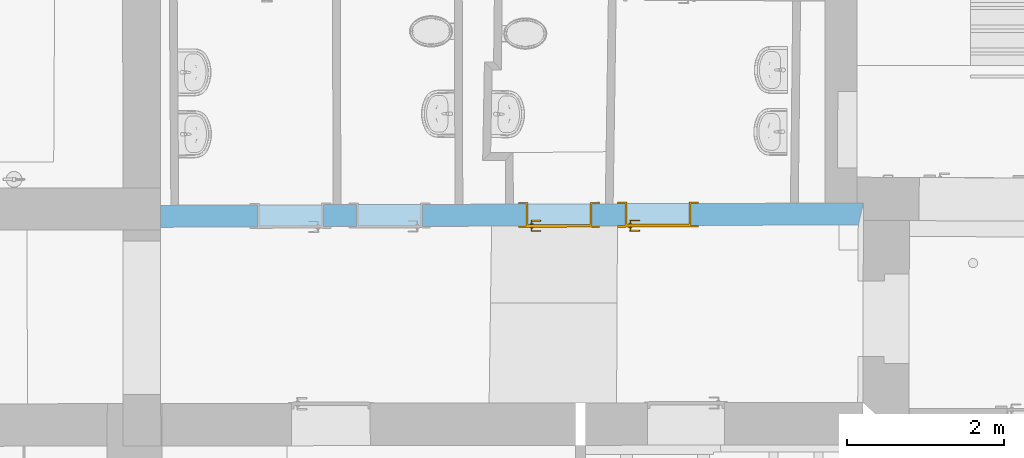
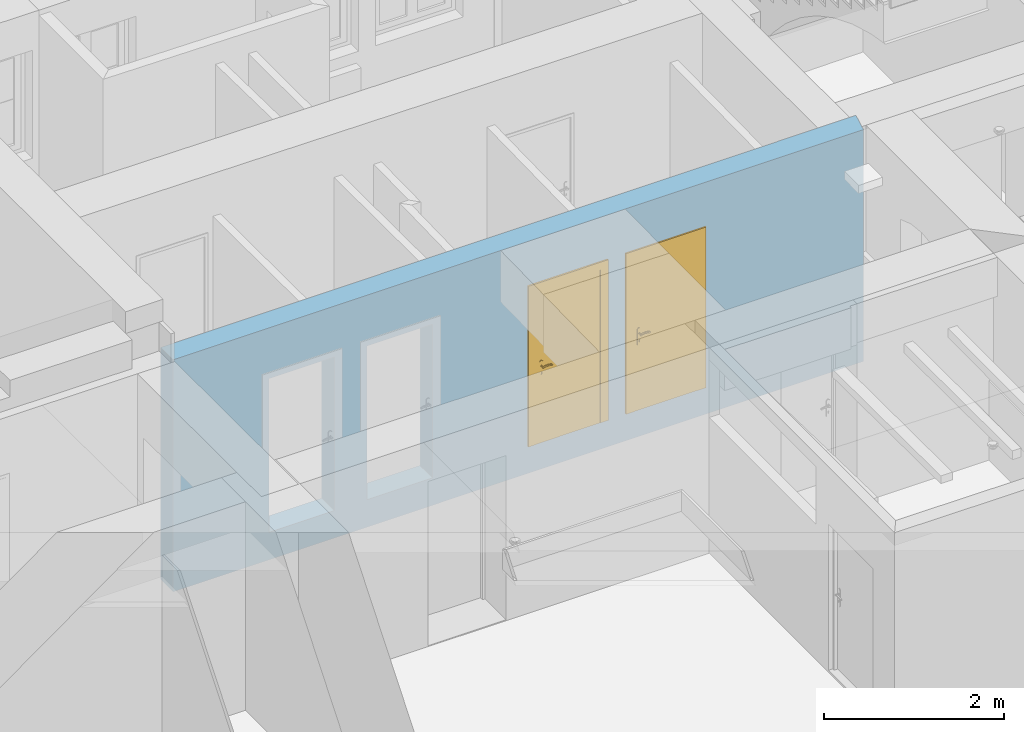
# One storey, part 48 of 196: 2 doors, 4 openings, plus 1 element that does not belong to this part.
"""IFC2X3 building model written with IfcOpenShell, lengths in metres."""

import ifcopenshell
import ifcopenshell.guid

model = None  # the IFC model being written
_history = None  # IfcOwnerHistory: only IFC2X3 demands one
_inside = {}  # id of a spatial element -> (the spatial element, [elements in it])
_under = {}  # id of a project, library or spatial element -> (it, [spatial elements below it])
_declared = {}  # id of a project -> (the project, [libraries it declares])
_typed = {}  # id of a type object -> (the type object, [elements of that type])
_made_of = {}  # id of a material, layer set ... -> (it, [elements and type objects made of it])


def new_model(schema):
    """Start an empty IFC model of exactly this schema.

    Asked for "IFC4X3", IfcOpenShell would pick the latest addendum, in which some entities
    have other attributes; the version numbers below select the first issue.
    IFC2X3 requires an IfcOwnerHistory on every rooted entity: one is made here for all.
    """
    global model, _history
    if schema == "IFC4X3":
        model = ifcopenshell.file(schema_version=(4, 3, 0, 0))
    else:
        model = ifcopenshell.file(schema=schema)
    _inside.clear()
    _under.clear()
    _declared.clear()
    _typed.clear()
    _made_of.clear()
    _history = None
    if model.schema == "IFC2X3":
        org = make("IfcOrganization", Name="unknown")
        user = make(
            "IfcPersonAndOrganization",
            ThePerson=make("IfcPerson", FamilyName="unknown"),
            TheOrganization=org,
        )
        app = make(
            "IfcApplication",
            ApplicationDeveloper=org,
            Version="unknown",
            ApplicationFullName="unknown",
            ApplicationIdentifier="unknown",
        )
        _history = make(
            "IfcOwnerHistory",
            OwningUser=user,
            OwningApplication=app,
            ChangeAction="ADDED",
            CreationDate=0,
        )
    return model


def make(cls, **values):
    """One entity of the class cls with the attributes given. An attribute that is None is left unset."""
    return model.create_entity(
        cls, **{name: value for name, value in values.items() if value is not None}
    )


def entity(cls, *values):
    """Any entity or typed value of the class cls, its attributes in the order of the schema. None: left unset."""
    e = model.create_entity(cls)
    for i, value in enumerate(values):
        if value is not None:
            e[i] = value
    return e


def rooted(cls, **values):
    """An entity with a GlobalId (a new one), such as an element, a storey or a relation."""
    return make(cls, GlobalId=ifcopenshell.guid.new(), OwnerHistory=_history, **values)


def si_unit(unit_type, name, prefix=None):
    """IfcSIUnit, for example si_unit("LENGTHUNIT", "METRE", prefix="MILLI")."""
    return make("IfcSIUnit", UnitType=unit_type, Prefix=prefix, Name=name)


def converted_unit(unit_type, name, factor, base, dimensions=None, offset=None):
    """IfcConversionBasedUnit, such as the inch: factor (a typed value) times the base unit."""
    return make(
        "IfcConversionBasedUnit"
        if offset is None
        else "IfcConversionBasedUnitWithOffset",
        ConversionOffset=offset,
        Dimensions=None
        if dimensions is None
        else entity("IfcDimensionalExponents", *dimensions),
        UnitType=unit_type,
        Name=name,
        ConversionFactor=make(
            "IfcMeasureWithUnit", ValueComponent=factor, UnitComponent=base
        ),
    )


def derived_unit(unit_type, elements):
    """IfcDerivedUnit: a product of units, each with its exponent."""
    return make(
        "IfcDerivedUnit",
        Elements=[
            make("IfcDerivedUnitElement", Unit=unit, Exponent=power)
            for unit, power in elements
        ],
        UnitType=unit_type,
    )


def money_unit(currency):
    """IfcMonetaryUnit."""
    return make("IfcMonetaryUnit", Currency=currency)


def assignment(units):
    """IfcUnitAssignment: the units of a project."""
    return None if units is None else make("IfcUnitAssignment", Units=units)


def point(xyz):
    """IfcCartesianPoint."""
    return None if xyz is None else make("IfcCartesianPoint", Coordinates=xyz)


def direction(xyz):
    """IfcDirection."""
    return None if xyz is None else make("IfcDirection", DirectionRatios=xyz)


def frame(location, z_axis=None, x_axis=None):
    """IfcAxis2Placement3D, a coordinate frame: its origin and axes. An axis left out is left unset."""
    return make(
        "IfcAxis2Placement3D",
        Location=point(location),
        Axis=direction(z_axis),
        RefDirection=direction(x_axis),
    )


def frame_2d(location, x_axis=None):
    """IfcAxis2Placement2D, a coordinate frame in the plane: its origin and x axis."""
    return make(
        "IfcAxis2Placement2D", Location=point(location), RefDirection=direction(x_axis)
    )


def origin_with_axes():
    """The frame at (0, 0, 0) with the z axis (0, 0, 1) and the x axis (1, 0, 0) written out."""
    return frame((0.0, 0.0, 0.0), z_axis=(0.0, 0.0, 1.0), x_axis=(1.0, 0.0, 0.0))


def origin_2d_with_axis():
    """The frame at (0, 0) in the plane with the x axis (1, 0) written out."""
    return frame_2d((0.0, 0.0), x_axis=(1.0, 0.0))


def place(relative_to, where):
    """IfcLocalPlacement: puts the frame where relative to a parent placement (None: the world)."""
    return make(
        "IfcLocalPlacement", PlacementRelTo=relative_to, RelativePlacement=where
    )


def context(
    kind, dimensions, precision=None, world=None, true_north=None, identifier=None
):
    """IfcGeometricRepresentationContext, for example the 3D "Model" context."""
    return make(
        "IfcGeometricRepresentationContext",
        ContextIdentifier=identifier,
        ContextType=kind,
        CoordinateSpaceDimension=dimensions,
        Precision=precision,
        WorldCoordinateSystem=world,
        TrueNorth=true_north,
    )


def subcontext(parent, identifier, kind, view, scale=None):
    """IfcGeometricRepresentationSubContext, for example "Body" below "Model"."""
    return make(
        "IfcGeometricRepresentationSubContext",
        ContextIdentifier=identifier,
        ContextType=kind,
        ParentContext=parent,
        TargetScale=scale,
        TargetView=view,
    )


def project(units=None, contexts=None):
    """IfcProject with its units and contexts."""
    return rooted(
        "IfcProject",
        Name="project",
        RepresentationContexts=contexts,
        UnitsInContext=assignment(units),
    )


def spatial(cls, under=None, at=None, **own):
    """A site, building, storey or space (cls), placed at a placement, below another one or the project."""
    s = rooted(cls, ObjectPlacement=at, **own)
    if under is not None:
        _under.setdefault(under.id(), (under, []))[1].append(s)
    return s


def polyline(points):
    """IfcPolyline through the points."""
    return make("IfcPolyline", Points=[point(p) for p in points])


def profile(cls, at=None, kind="AREA", **sizes):
    """A parametric profile (cls). Its sizes go by their IFC names, for example OverallWidth=200.0."""
    return make(cls, ProfileType=kind, Position=at, **sizes)


def rectangle(**sizes):
    """IfcRectangleProfileDef."""
    return profile("IfcRectangleProfileDef", **sizes)


def outline(outer, holes=None, kind="AREA"):
    """IfcArbitraryClosedProfileDef: a profile drawn as a closed curve; with holes, ...WithVoids."""
    if holes is None:
        return make("IfcArbitraryClosedProfileDef", ProfileType=kind, OuterCurve=outer)
    return make(
        "IfcArbitraryProfileDefWithVoids",
        ProfileType=kind,
        OuterCurve=outer,
        InnerCurves=holes,
    )


def extrude(swept, where, along, depth):
    """IfcExtrudedAreaSolid: the profile swept, set in the frame where, extruded along a direction by depth."""
    return make(
        "IfcExtrudedAreaSolid",
        SweptArea=swept,
        Position=where,
        ExtrudedDirection=direction(along),
        Depth=depth,
    )


def faces_of(points, faces, orient=None, outer=None):
    """IfcFace entities. A face is a list of loops; a loop is a list of indices into points, from 0.

    orient and outer hold one flag for each loop. By default every Orientation is true, the
    first loop of a face is its IfcFaceOuterBound and the others are IfcFaceBound.
    """
    made = []
    for i, loops in enumerate(faces):
        bounds = []
        for j, loop in enumerate(loops):
            is_outer = j == 0 if outer is None else outer[i][j]
            bounds.append(
                make(
                    "IfcFaceOuterBound" if is_outer else "IfcFaceBound",
                    Bound=make("IfcPolyLoop", Polygon=[points[k] for k in loop]),
                    Orientation=True if orient is None else orient[i][j],
                )
            )
        made.append(make("IfcFace", Bounds=bounds))
    return made


def faceted_brep(points, faces, orient=None, outer=None, voids=None):
    """IfcFacetedBrep: a solid bounded by flat faces; with voids (closed shells), ...WithVoids."""
    shared = [point(p) for p in points]
    hull = make("IfcClosedShell", CfsFaces=faces_of(shared, faces, orient, outer))
    if voids is None:
        return make("IfcFacetedBrep", Outer=hull)
    return make(
        "IfcFacetedBrepWithVoids",
        Outer=hull,
        Voids=[
            make(cls, CfsFaces=faces_of(shared, fs, o, b)) for cls, fs, o, b in voids
        ],
    )


def shape(context_of_items, identifier, shape_type, items):
    """IfcShapeRepresentation: the items that make up one representation, for example the "Body"."""
    return make(
        "IfcShapeRepresentation",
        ContextOfItems=context_of_items,
        RepresentationIdentifier=identifier,
        RepresentationType=shape_type,
        Items=items,
    )


def source(mapping_origin, context_of_items, identifier, shape_type, items):
    """IfcRepresentationMap: a shape defined once, which mapped items show again and again."""
    return make(
        "IfcRepresentationMap",
        MappingOrigin=mapping_origin,
        MappedRepresentation=shape(context_of_items, identifier, shape_type, items),
    )


def transform(
    local_origin,
    x_axis=None,
    y_axis=None,
    z_axis=None,
    scale=None,
    scale2=None,
    scale3=None,
    uniform=True,
):
    """IfcCartesianTransformationOperator3D, or its non-uniform kind. x_axis, y_axis, z_axis: its Axis1, 2, 3."""
    if uniform:
        return make(
            "IfcCartesianTransformationOperator3D",
            Axis1=direction(x_axis),
            Axis2=direction(y_axis),
            LocalOrigin=point(local_origin),
            Scale=scale,
            Axis3=direction(z_axis),
        )
    return make(
        "IfcCartesianTransformationOperator3DnonUniform",
        Axis1=direction(x_axis),
        Axis2=direction(y_axis),
        LocalOrigin=point(local_origin),
        Scale=scale,
        Axis3=direction(z_axis),
        Scale2=scale2,
        Scale3=scale3,
    )


def mapped(mapping_source, mapping_target):
    """IfcMappedItem: shows the shape of a source again, moved by a transform."""
    return make(
        "IfcMappedItem", MappingSource=mapping_source, MappingTarget=mapping_target
    )


def material(Name=None, Category=None):
    """IfcMaterial."""
    return make("IfcMaterial", Name=Name, Category=Category)


def layer(
    of_material, thickness, ventilated=None, Name=None, Category=None, Priority=None
):
    """IfcMaterialLayer: one layer of a wall or slab, of a material (None: an air gap)."""
    return make(
        "IfcMaterialLayer",
        Material=of_material,
        LayerThickness=thickness,
        IsVentilated=ventilated,
        Name=Name,
        Category=Category,
        Priority=Priority,
    )


def layer_set(layers, Name=None):
    """IfcMaterialLayerSet."""
    return make("IfcMaterialLayerSet", MaterialLayers=layers, LayerSetName=Name)


def layer_usage(for_layer_set, set_direction, sense, offset, extent=None):
    """IfcMaterialLayerSetUsage: how a layer set lies in its element."""
    return make(
        "IfcMaterialLayerSetUsage",
        ForLayerSet=for_layer_set,
        LayerSetDirection=set_direction,
        DirectionSense=sense,
        OffsetFromReferenceLine=offset,
        ReferenceExtent=extent,
    )


def made_of(thing, what):
    """Note that an element or type object is made of a material, layer set ...; save() writes the relation."""
    if what is not None:
        _made_of.setdefault(what.id(), (what, []))[1].append(thing)
    return thing


def type_object(cls, material=None, **own):
    """A type object (cls), such as IfcWallType, which elements share."""
    return made_of(rooted(cls, **own), material)


def element(
    cls,
    number,
    at=None,
    inside=None,
    cuts=None,
    type_object=None,
    material=None,
    context=None,
    identifier="Body",
    shape_type=None,
    held_by="IfcProductDefinitionShape",
    body=None,
    shapes=None,
    **own,
):
    """One element of the class cls, such as IfcWall. Its Tag is "e" and its number.

    at: its placement. inside: the storey or other place that contains it. cuts: it is an
    opening in that element (IfcRelVoidsElement). A single representation is given by context,
    identifier, shape_type and body (its items); several are given by shapes. held_by: the class
    of the entity that holds the representations. save() writes the other relations.
    """
    e = rooted(cls, Tag="e%d" % number, ObjectPlacement=at, **own)
    if body is not None:
        shapes = [shape(context, identifier, shape_type, body)]
    if shapes is not None:
        e.Representation = make(held_by, Representations=shapes)
    if inside is not None:
        _inside.setdefault(inside.id(), (inside, []))[1].append(e)
    if cuts is not None:
        rooted(
            "IfcRelVoidsElement", RelatingBuildingElement=cuts, RelatedOpeningElement=e
        )
    if type_object is not None:
        _typed.setdefault(type_object.id(), (type_object, []))[1].append(e)
    return made_of(e, material)


def fill(opening, filler):
    """IfcRelFillsElement: the door or window that sits in an opening."""
    return rooted(
        "IfcRelFillsElement",
        RelatingOpeningElement=opening,
        RelatedBuildingElement=filler,
    )


def aggregate(whole, parts):
    """IfcRelAggregates: a whole, such as a stair, and the parts it consists of."""
    return rooted("IfcRelAggregates", RelatingObject=whole, RelatedObjects=parts)


def save(model, path):
    """Write the relations noted so far, then the file.

    IfcRelAggregates (storeys below a building ...), IfcRelContainedInSpatialStructure (elements
    in a storey), IfcRelDefinesByType, IfcRelAssociatesMaterial and IfcRelDeclares: one each for
    every whole, place, type object, material and project.
    """
    for whole, parts in _under.values():
        aggregate(whole, parts)
    for where, things in _inside.values():
        rooted(
            "IfcRelContainedInSpatialStructure",
            RelatedElements=things,
            RelatingStructure=where,
        )
    for kind, things in _typed.values():
        rooted("IfcRelDefinesByType", RelatedObjects=things, RelatingType=kind)
    for what, things in _made_of.values():
        rooted("IfcRelAssociatesMaterial", RelatedObjects=things, RelatingMaterial=what)
    for by, libraries in _declared.values():
        rooted("IfcRelDeclares", RelatingContext=by, RelatedDefinitions=libraries)
    model.write(path)


model = new_model("IFC2X3")

# Units and contexts
model_context = context("Model", 3, precision=1e-05, world=origin_with_axes(), true_north=direction((0.0, 1.0)))
body_context = subcontext(model_context, "Body", "Model", "MODEL_VIEW")
ifc_project = project(units=[si_unit("LENGTHUNIT", "METRE"), si_unit("AREAUNIT", "SQUARE_METRE"), si_unit("VOLUMEUNIT", "CUBIC_METRE"), converted_unit("PLANEANGLEUNIT", "DEGREE", entity("IfcPlaneAngleMeasure", 0.0174532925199), si_unit("PLANEANGLEUNIT", "RADIAN"), dimensions=[0, 0, 0, 0, 0, 0, 0]), money_unit("EUR"), converted_unit("TIMEUNIT", "Year", entity("IfcTimeMeasure", 31556926.0), si_unit("TIMEUNIT", "SECOND"), dimensions=[0, 0, 1, 0, 0, 0, 0]), si_unit("MASSUNIT", "GRAM", prefix="KILO"), si_unit("THERMODYNAMICTEMPERATUREUNIT", "DEGREE_CELSIUS"), si_unit("LUMINOUSINTENSITYUNIT", "LUMEN"), si_unit("ENERGYUNIT", "JOULE", prefix="MEGA"), derived_unit("THERMALCONDUCTANCEUNIT", [(si_unit("POWERUNIT", "WATT"), 1), (si_unit("LENGTHUNIT", "METRE"), -1), (si_unit("THERMODYNAMICTEMPERATUREUNIT", "KELVIN"), -1)]), derived_unit("SPECIFICHEATCAPACITYUNIT", [(si_unit("ENERGYUNIT", "JOULE"), 1), (si_unit("MASSUNIT", "GRAM", prefix="KILO"), -1), (si_unit("THERMODYNAMICTEMPERATUREUNIT", "KELVIN"), -1)]), derived_unit("MASSDENSITYUNIT", [(si_unit("MASSUNIT", "GRAM", prefix="KILO"), 1), (si_unit("VOLUMEUNIT", "CUBIC_METRE"), -1)])], contexts=[model_context])

# Site, building, storey
site_placement = place(None, origin_with_axes())
site = spatial("IfcSite", under=ifc_project, at=site_placement, Name="Gelände", CompositionType="ELEMENT")
building_placement = place(site_placement, origin_with_axes())
building = spatial("IfcBuilding", under=site, at=building_placement, Name="Gebäude", CompositionType="ELEMENT")
storey_placement = place(building_placement, frame((0.0, 0.0, -3.0), z_axis=(0.0, 0.0, 1.0), x_axis=(1.0, 0.0, 0.0)))
storey = spatial("IfcBuildingStorey", under=building, at=storey_placement, Name="KELLERGESCHOSS", CompositionType="ELEMENT", Elevation=-3.0)

# Wall, openings, doors
ifc_material = material(Name="05_ALLGEMEIN - TRAGENDE BAUTEILE")
ifc_layer = layer(ifc_material, 0.28, ventilated="UNKNOWN")
ifc_layer_set = layer_set([ifc_layer], Name="05_ALLGEMEIN - TRAGENDE BAUTEILE 0.28")
ifc_layer_usage = layer_usage(ifc_layer_set, "AXIS2", "NEGATIVE", 0.28)
wall_type = type_object("IfcWallType", Name="05_ALLGEMEIN - TRAGENDE BAUTEILE 280", PredefinedType="ELEMENTEDWALL")
wall_placement = place(storey_placement, frame((12.5479035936, 19.1983411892, -0.36), z_axis=(0.0, 0.0, 1.0), x_axis=(0.999994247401, 0.00339192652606, 0.0)))
wall = element("IfcWallStandardCase", 1, at=wall_placement, inside=storey, type_object=wall_type, material=ifc_layer_usage, Name="Wand-039", ObjectType="ELEMENTEDWALL", context=body_context, shape_type="SweptSolid", body=[
    extrude(outline(polyline([(0.480001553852, 0.0), (9.36265361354, 0.0), (9.42943294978, 0.28), (0.480714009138, 0.28), (0.480001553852, 0.0)])), origin_with_axes(), (0.0, 0.0, 1.0), 3.15),
])
opening_1_placement = place(wall_placement, frame((2.13369699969, 0.0, 0.372925), z_axis=(0.0, 0.0, 1.0), x_axis=(1.0, 0.0, 0.0)))
element("IfcOpeningElement", 2, at=opening_1_placement, cuts=wall, Name="Tür-022", context=body_context, shape_type="SweptSolid", body=[
    extrude(rectangle(XDim=0.840428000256, YDim=2.086604, at=origin_2d_with_axis()), frame((0.0, -0.28, 1.043302), z_axis=(0.0, 1.0, 0.0), x_axis=(-1.0, 0.0, 0.0)), (0.0, 0.0, 1.0), 0.84),
])
opening_2_placement = place(wall_placement, frame((3.39699742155, 0.0, 0.372925), z_axis=(0.0, 0.0, 1.0), x_axis=(1.0, 0.0, 0.0)))
element("IfcOpeningElement", 3, at=opening_2_placement, cuts=wall, Name="Tür-022", context=body_context, shape_type="SweptSolid", body=[
    extrude(rectangle(XDim=0.840428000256, YDim=2.086604, at=origin_2d_with_axis()), frame((0.0, -0.28, 1.043302), z_axis=(0.0, 1.0, 0.0), x_axis=(-1.0, 0.0, 0.0)), (0.0, 0.0, 1.0), 0.84),
])
opening_3_placement = place(wall_placement, frame((5.55419472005, 0.0, 0.372925), z_axis=(0.0, 0.0, 1.0), x_axis=(1.0, 0.0, 0.0)))
opening_3 = element("IfcOpeningElement", 4, at=opening_3_placement, cuts=wall, Name="Tür-022", context=body_context, shape_type="SweptSolid", body=[
    extrude(rectangle(XDim=0.840428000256, YDim=2.086604, at=origin_2d_with_axis()), frame((0.0, 0.28, 1.043302), z_axis=(0.0, 1.0, 0.0), x_axis=(1.0, 0.0, 0.0)), (0.0, 0.0, -1.0), 0.84),
])
opening_4_placement = place(wall_placement, frame((6.8127541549, 0.0, 0.372925), z_axis=(0.0, 0.0, 1.0), x_axis=(1.0, 0.0, 0.0)))
opening_4 = element("IfcOpeningElement", 5, at=opening_4_placement, cuts=wall, Name="Tür-022", context=body_context, shape_type="SweptSolid", body=[
    extrude(rectangle(XDim=0.840428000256, YDim=2.086604, at=origin_2d_with_axis()), frame((0.0, 0.28, 1.043302), z_axis=(0.0, 1.0, 0.0), x_axis=(1.0, 0.0, 0.0)), (0.0, 0.0, -1.0), 0.84),
])
door_style = type_object("IfcDoorStyle", Name="Blockrahmentür 1-Fl 25", ConstructionType="NOTDEFINED", OperationType="SINGLE_SWING_LEFT", ParameterTakesPrecedence=False, Sizeable=False)
shared_shape = source(origin_with_axes(), body_context, "Body", "Brep", [
    faceted_brep([(-0.420214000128, -0.3, 0.0), (-0.420214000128, -0.3, 2.086604), (-0.420214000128, -0.02, 2.086604), (-0.420214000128, -0.02, 0.0), (-0.395214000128, -0.3, 0.0), (-0.395214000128, -0.3, 2.061604), (-0.1151, -0.3, 2.061604), (-0.0001, -0.3, 2.061604), (0.395214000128, -0.3, 2.061604), (0.395214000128, -0.3, 0.0), (0.420214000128, -0.3, 0.0), (0.420214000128, -0.3, 2.086604), (0.420214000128, -0.02, 2.086604), (0.420214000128, -0.02, 0.0), (0.395214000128, -0.02, 0.0), (0.395214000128, -0.02, 2.061604), (-0.0001, -0.02, 2.061604), (-0.1151, -0.02, 2.061604), (-0.395214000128, -0.02, 2.061604), (-0.395214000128, -0.02, 0.0)], [[[0, 1, 2, 3]], [[0, 4, 5, 6, 7, 8, 9, 10, 11, 1]], [[1, 11, 12, 2]], [[3, 2, 12, 13, 14, 15, 16, 17, 18, 19]], [[4, 0, 3, 19]], [[5, 4, 19, 18]], [[6, 5, 18, 17]], [[7, 6, 17, 16]], [[8, 7, 16, 15]], [[9, 8, 15, 14]], [[10, 9, 14, 13]], [[11, 10, 13, 12]]]),
    faceted_brep([(-0.420214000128, -0.02, 0.0), (-0.420214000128, -0.02, 2.086604), (-0.420214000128, 0.02, 2.086604), (-0.420214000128, 0.02, 0.0), (-0.410214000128, -0.02, 0.0), (-0.410214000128, -0.02, 2.076604), (-0.1001, -0.02, 2.076604), (-0.0151, -0.02, 2.076604), (0.410214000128, -0.02, 2.076604), (0.410214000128, -0.02, 0.0), (0.420214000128, -0.02, 0.0), (0.420214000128, -0.02, 2.086604), (0.420214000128, 0.02, 2.086604), (0.420214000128, 0.02, 0.0), (0.410214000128, 0.02, 0.0), (0.410214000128, 0.02, 2.076604), (-0.0151, 0.02, 2.076604), (-0.1001, 0.02, 2.076604), (-0.410214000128, 0.02, 2.076604), (-0.410214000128, 0.02, 0.0)], [[[0, 1, 2, 3]], [[0, 4, 5, 6, 7, 8, 9, 10, 11, 1]], [[1, 11, 12, 2]], [[3, 2, 12, 13, 14, 15, 16, 17, 18, 19]], [[4, 0, 3, 19]], [[5, 4, 19, 18]], [[6, 5, 18, 17]], [[7, 6, 17, 16]], [[8, 7, 16, 15]], [[9, 8, 15, 14]], [[10, 9, 14, 13]], [[11, 10, 13, 12]]]),
    faceted_brep([(-0.515214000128, -0.3, 0.0), (-0.515214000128, -0.3, 2.181604), (-0.515214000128, -0.28, 2.181604), (-0.515214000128, -0.28, 0.0), (-0.420214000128, -0.3, 0.0), (-0.420214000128, -0.3, 2.086604), (0.420214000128, -0.3, 2.086604), (0.420214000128, -0.3, 0.0), (0.515214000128, -0.3, 0.0), (0.515214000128, -0.3, 2.181604), (0.515214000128, -0.28, 2.181604), (0.515214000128, -0.28, 0.0), (0.420214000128, -0.28, 0.0), (0.420214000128, -0.28, 2.086604), (-0.420214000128, -0.28, 2.086604), (-0.420214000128, -0.28, 0.0)], [[[0, 1, 2, 3]], [[0, 4, 5, 6, 7, 8, 9, 1]], [[1, 9, 10, 2]], [[3, 2, 10, 11, 12, 13, 14, 15]], [[4, 0, 3, 15]], [[5, 4, 15, 14]], [[6, 5, 14, 13]], [[7, 6, 13, 12]], [[8, 7, 12, 11]], [[9, 8, 11, 10]]]),
    faceted_brep([(-0.515214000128, 0.0, 0.0), (-0.515214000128, 0.0, 2.181604), (-0.515214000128, 0.02, 2.181604), (-0.515214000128, 0.02, 0.0), (-0.420214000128, 0.0, 0.0), (-0.420214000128, 0.0, 2.086604), (0.420214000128, 0.0, 2.086604), (0.420214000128, 0.0, 0.0), (0.515214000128, 0.0, 0.0), (0.515214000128, 0.0, 2.181604), (0.515214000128, 0.02, 2.181604), (0.515214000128, 0.02, 0.0), (0.420214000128, 0.02, 0.0), (0.420214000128, 0.02, 2.086604), (-0.420214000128, 0.02, 2.086604), (-0.420214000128, 0.02, 0.0)], [[[0, 1, 2, 3]], [[0, 4, 5, 6, 7, 8, 9, 1]], [[1, 9, 10, 2]], [[3, 2, 10, 11, 12, 13, 14, 15]], [[4, 0, 3, 15]], [[5, 4, 15, 14]], [[6, 5, 14, 13]], [[7, 6, 13, 12]], [[8, 7, 12, 11]], [[9, 8, 11, 10]]]),
    faceted_brep([(-0.410214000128, 0.017, 0.0), (-0.410214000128, 0.017, 2.076604), (0.410214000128, 0.017, 2.076604), (0.410214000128, 0.017, 0.0), (-0.410214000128, -0.02, 0.0), (-0.410214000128, -0.02, 2.076604), (0.410214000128, -0.02, 2.076604), (0.410214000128, -0.02, 0.0)], [[[0, 1, 2, 3]], [[0, 4, 5, 1]], [[1, 5, 6, 2]], [[2, 6, 7, 3]], [[3, 7, 4, 0]], [[7, 6, 5, 4]]]),
    faceted_brep([(0.354916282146, -0.06, 1.05647213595), (0.354916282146, -0.04, 1.05647213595), (0.350214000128, -0.04, 1.058), (0.350214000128, -0.06, 1.058), (0.357822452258, -0.06, 1.05247213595), (0.357822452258, -0.04, 1.05247213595), (0.356091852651, -0.038, 1.05809016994), (0.350214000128, -0.038, 1.06), (0.34551171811, -0.04, 1.05647213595), (0.34551171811, -0.06, 1.05647213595), (0.342605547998, -0.06, 1.05247213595), (0.342605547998, -0.06, 1.04752786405), (0.34551171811, -0.06, 1.04352786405), (0.350214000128, -0.06, 1.042), (0.354916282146, -0.06, 1.04352786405), (0.357822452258, -0.06, 1.04752786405), (0.357822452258, -0.04, 1.04752786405), (0.359724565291, -0.038, 1.05309016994), (0.356091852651, -0.03, 1.05809016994), (0.350214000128, -0.03, 1.06), (0.344336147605, -0.038, 1.05809016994), (0.342605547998, -0.04, 1.05247213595), (0.342605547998, -0.04, 1.04752786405), (0.34551171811, -0.04, 1.04352786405), (0.350214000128, -0.04, 1.042), (0.354916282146, -0.04, 1.04352786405), (0.359724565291, -0.038, 1.04690983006), (0.359724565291, -0.03, 1.05309016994), (0.359724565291, -0.03, 1.04690983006), (0.356091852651, -0.03, 1.04190983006), (0.350214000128, -0.03, 1.04), (0.344336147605, -0.03, 1.04190983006), (0.340703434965, -0.03, 1.04690983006), (0.340703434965, -0.03, 1.05309016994), (0.344336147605, -0.03, 1.05809016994), (0.340703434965, -0.038, 1.05309016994), (0.340703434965, -0.038, 1.04690983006), (0.344336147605, -0.038, 1.04190983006), (0.350214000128, -0.038, 1.04), (0.356091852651, -0.038, 1.04190983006)], [[[0, 1, 2, 3]], [[4, 5, 1, 0]], [[1, 6, 7, 2]], [[3, 2, 8, 9]], [[3, 9, 10, 11, 12, 13, 14, 15, 4, 0]], [[15, 16, 5, 4]], [[5, 17, 6, 1]], [[6, 18, 19, 7]], [[2, 7, 20, 8]], [[9, 8, 21, 10]], [[10, 21, 22, 11]], [[11, 22, 23, 12]], [[12, 23, 24, 13]], [[13, 24, 25, 14]], [[14, 25, 16, 15]], [[16, 26, 17, 5]], [[17, 27, 18, 6]], [[19, 18, 27, 28, 29, 30, 31, 32, 33, 34]], [[7, 19, 34, 20]], [[8, 20, 35, 21]], [[21, 35, 36, 22]], [[22, 36, 37, 23]], [[23, 37, 38, 24]], [[24, 38, 39, 25]], [[25, 39, 26, 16]], [[26, 28, 27, 17]], [[39, 29, 28, 26]], [[38, 30, 29, 39]], [[37, 31, 30, 38]], [[36, 32, 31, 37]], [[35, 33, 32, 36]], [[20, 34, 33, 35]]]),
    faceted_brep([(0.338025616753, -0.03, 1.11759695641), (0.333414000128, -0.03, 1.11), (0.327714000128, -0.03, 1.11), (0.327714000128, -0.03, 0.89), (0.333414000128, -0.03, 0.89), (0.338025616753, -0.03, 0.882403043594), (0.345770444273, -0.03, 0.878044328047), (0.354657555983, -0.03, 0.878044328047), (0.362402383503, -0.03, 0.882403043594), (0.367014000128, -0.03, 0.89), (0.372714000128, -0.03, 0.89), (0.372714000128, -0.03, 1.11), (0.367014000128, -0.03, 1.11), (0.362402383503, -0.03, 1.11759695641), (0.354657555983, -0.03, 1.12195567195), (0.345770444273, -0.03, 1.12195567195), (0.350214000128, -0.03, 0.967425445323), (0.355589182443, -0.03, 0.965143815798), (0.357681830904, -0.03, 0.959692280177), (0.355214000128, -0.03, 0.9544), (0.355214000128, -0.03, 0.9375), (0.353749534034, -0.03, 0.933964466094), (0.350214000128, -0.03, 0.9325), (0.346678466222, -0.03, 0.933964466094), (0.345214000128, -0.03, 0.9375), (0.345214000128, -0.03, 0.9544), (0.342746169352, -0.03, 0.959692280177), (0.344838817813, -0.03, 0.965143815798), (0.338025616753, -0.02, 1.11759695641), (0.333414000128, -0.02, 1.11), (0.327714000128, -0.02, 1.11), (0.327714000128, -0.02, 0.89), (0.333414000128, -0.02, 0.89), (0.338025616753, -0.02, 0.882403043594), (0.345770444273, -0.02, 0.878044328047), (0.354657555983, -0.02, 0.878044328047), (0.362402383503, -0.02, 0.882403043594), (0.367014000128, -0.02, 0.89), (0.372714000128, -0.02, 0.89), (0.372714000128, -0.02, 1.11), (0.367014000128, -0.02, 1.11), (0.362402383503, -0.02, 1.11759695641), (0.354657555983, -0.02, 1.12195567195), (0.345770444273, -0.02, 1.12195567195), (0.350214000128, -0.02, 0.967425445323), (0.355589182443, -0.02, 0.965143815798), (0.357681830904, -0.02, 0.959692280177), (0.355214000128, -0.02, 0.9544), (0.355214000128, -0.02, 0.9375), (0.353749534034, -0.02, 0.933964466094), (0.350214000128, -0.02, 0.9325), (0.346678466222, -0.02, 0.933964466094), (0.345214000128, -0.02, 0.9375), (0.345214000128, -0.02, 0.9544), (0.342746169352, -0.02, 0.959692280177), (0.344838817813, -0.02, 0.965143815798)], [[[0, 1, 2, 3, 4, 5, 6, 7, 8, 9, 10, 11, 12, 13, 14, 15], [16, 17, 18, 19, 20, 21, 22, 23, 24, 25, 26, 27]], [[0, 28, 29, 1]], [[1, 29, 30, 2]], [[2, 30, 31, 3]], [[3, 31, 32, 4]], [[4, 32, 33, 5]], [[5, 33, 34, 6]], [[6, 34, 35, 7]], [[7, 35, 36, 8]], [[8, 36, 37, 9]], [[9, 37, 38, 10]], [[10, 38, 39, 11]], [[11, 39, 40, 12]], [[12, 40, 41, 13]], [[13, 41, 42, 14]], [[14, 42, 43, 15]], [[15, 43, 28, 0]], [[16, 44, 45, 17]], [[17, 45, 46, 18]], [[18, 46, 47, 19]], [[47, 48, 20, 19]], [[21, 20, 48, 49]], [[22, 21, 49, 50]], [[23, 22, 50, 51]], [[24, 23, 51, 52]], [[25, 24, 52, 53]], [[25, 53, 54, 26]], [[26, 54, 55, 27]], [[27, 55, 44, 16]], [[32, 31, 30, 29, 28, 43, 42, 41, 40, 39, 38, 37, 36, 35, 34, 33], [46, 45, 44, 55, 54, 53, 52, 51, 50, 49, 48, 47]]]),
    faceted_brep([(0.235961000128, -0.06, 1.057158), (0.235959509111, -0.06, 1.05719388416), (0.235959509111, -0.075, 1.05719388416), (0.235961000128, -0.075, 1.057158), (0.262988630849, -0.06, 1.06432652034), (0.290816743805, -0.06, 1.06706086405), (0.318722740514, -0.06, 1.06529002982), (0.345982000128, -0.06, 1.05906), (0.352384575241, -0.06, 1.05976125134), (0.357886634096, -0.06, 1.05641280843), (0.360205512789, -0.06, 1.05040385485), (0.35837916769, -0.06, 1.04422735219), (0.353165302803, -0.06, 1.04044577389), (0.346727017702, -0.06, 1.04062800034), (0.341735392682, -0.06, 1.04469843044), (0.341756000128, -0.06, 1.044666), (0.316467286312, -0.06, 1.05019878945), (0.290624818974, -0.06, 1.05171460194), (0.26486268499, -0.06, 1.04917624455), (0.239813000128, -0.06, 1.042646), (0.234269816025, -0.06, 1.04356849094), (0.230908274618, -0.06, 1.04807159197), (0.231599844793, -0.06, 1.05364829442), (0.231599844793, -0.075, 1.05364829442), (0.230908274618, -0.075, 1.04807159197), (0.234269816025, -0.075, 1.04356849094), (0.239813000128, -0.075, 1.042646), (0.26486268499, -0.075, 1.04917624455), (0.290624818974, -0.075, 1.05171460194), (0.316467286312, -0.075, 1.05019878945), (0.341756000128, -0.075, 1.044666), (0.341735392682, -0.075, 1.04469843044), (0.346727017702, -0.075, 1.04062800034), (0.353165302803, -0.075, 1.04044577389), (0.35837916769, -0.075, 1.04422735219), (0.360205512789, -0.075, 1.05040385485), (0.357886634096, -0.075, 1.05641280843), (0.352384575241, -0.075, 1.05976125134), (0.345982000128, -0.075, 1.05906), (0.318722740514, -0.075, 1.06529002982), (0.290816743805, -0.075, 1.06706086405), (0.262988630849, -0.075, 1.06432652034)], [[[0, 1, 2, 3]], [[0, 4, 5, 6, 7, 8, 9, 10, 11, 12, 13, 14, 15, 16, 17, 18, 19, 20, 21, 22, 1]], [[1, 22, 23, 2]], [[3, 2, 23, 24, 25, 26, 27, 28, 29, 30, 31, 32, 33, 34, 35, 36, 37, 38, 39, 40, 41]], [[4, 0, 3, 41]], [[5, 4, 41, 40]], [[6, 5, 40, 39]], [[7, 6, 39, 38]], [[8, 7, 38, 37]], [[9, 8, 37, 36]], [[10, 9, 36, 35]], [[11, 10, 35, 34]], [[12, 11, 34, 33]], [[13, 12, 33, 32]], [[14, 13, 32, 31]], [[15, 14, 31, 30]], [[16, 15, 30, 29]], [[17, 16, 29, 28]], [[18, 17, 28, 27]], [[19, 18, 27, 26]], [[20, 19, 26, 25]], [[21, 20, 25, 24]], [[22, 21, 24, 23]]]),
    faceted_brep([(0.354916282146, 0.057, 1.05647213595), (0.350214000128, 0.057, 1.058), (0.350214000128, 0.037, 1.058), (0.354916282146, 0.037, 1.05647213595), (0.357822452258, 0.057, 1.05247213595), (0.357822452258, 0.057, 1.04752786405), (0.354916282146, 0.057, 1.04352786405), (0.350214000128, 0.057, 1.042), (0.34551171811, 0.057, 1.04352786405), (0.342605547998, 0.057, 1.04752786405), (0.342605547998, 0.057, 1.05247213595), (0.34551171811, 0.057, 1.05647213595), (0.34551171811, 0.037, 1.05647213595), (0.350214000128, 0.035, 1.06), (0.356091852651, 0.035, 1.05809016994), (0.357822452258, 0.037, 1.05247213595), (0.357822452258, 0.037, 1.04752786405), (0.354916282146, 0.037, 1.04352786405), (0.350214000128, 0.037, 1.042), (0.34551171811, 0.037, 1.04352786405), (0.342605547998, 0.037, 1.04752786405), (0.342605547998, 0.037, 1.05247213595), (0.344336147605, 0.035, 1.05809016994), (0.350214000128, 0.027, 1.06), (0.356091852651, 0.027, 1.05809016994), (0.359724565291, 0.035, 1.05309016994), (0.359724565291, 0.035, 1.04690983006), (0.356091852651, 0.035, 1.04190983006), (0.350214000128, 0.035, 1.04), (0.344336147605, 0.035, 1.04190983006), (0.340703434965, 0.035, 1.04690983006), (0.340703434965, 0.035, 1.05309016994), (0.344336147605, 0.027, 1.05809016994), (0.340703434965, 0.027, 1.05309016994), (0.340703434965, 0.027, 1.04690983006), (0.344336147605, 0.027, 1.04190983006), (0.350214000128, 0.027, 1.04), (0.356091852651, 0.027, 1.04190983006), (0.359724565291, 0.027, 1.04690983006), (0.359724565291, 0.027, 1.05309016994)], [[[0, 1, 2, 3]], [[1, 0, 4, 5, 6, 7, 8, 9, 10, 11]], [[1, 11, 12, 2]], [[3, 2, 13, 14]], [[4, 0, 3, 15]], [[5, 4, 15, 16]], [[6, 5, 16, 17]], [[7, 6, 17, 18]], [[8, 7, 18, 19]], [[9, 8, 19, 20]], [[10, 9, 20, 21]], [[11, 10, 21, 12]], [[2, 12, 22, 13]], [[14, 13, 23, 24]], [[15, 3, 14, 25]], [[16, 15, 25, 26]], [[17, 16, 26, 27]], [[18, 17, 27, 28]], [[19, 18, 28, 29]], [[20, 19, 29, 30]], [[21, 20, 30, 31]], [[12, 21, 31, 22]], [[13, 22, 32, 23]], [[23, 32, 33, 34, 35, 36, 37, 38, 39, 24]], [[25, 14, 24, 39]], [[26, 25, 39, 38]], [[27, 26, 38, 37]], [[28, 27, 37, 36]], [[29, 28, 36, 35]], [[30, 29, 35, 34]], [[31, 30, 34, 33]], [[22, 31, 33, 32]]]),
    faceted_brep([(0.338025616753, 0.017, 1.11759695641), (0.333414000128, 0.017, 1.11), (0.327714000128, 0.017, 1.11), (0.327714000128, 0.017, 0.89), (0.333414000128, 0.017, 0.89), (0.338025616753, 0.017, 0.882403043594), (0.345770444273, 0.017, 0.878044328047), (0.354657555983, 0.017, 0.878044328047), (0.362402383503, 0.017, 0.882403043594), (0.367014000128, 0.017, 0.89), (0.372714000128, 0.017, 0.89), (0.372714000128, 0.017, 1.11), (0.367014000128, 0.017, 1.11), (0.362402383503, 0.017, 1.11759695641), (0.354657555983, 0.017, 1.12195567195), (0.345770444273, 0.017, 1.12195567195), (0.350214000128, 0.017, 0.967425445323), (0.355589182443, 0.017, 0.965143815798), (0.357681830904, 0.017, 0.959692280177), (0.355214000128, 0.017, 0.9544), (0.355214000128, 0.017, 0.9375), (0.353749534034, 0.017, 0.933964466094), (0.350214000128, 0.017, 0.9325), (0.346678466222, 0.017, 0.933964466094), (0.345214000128, 0.017, 0.9375), (0.345214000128, 0.017, 0.9544), (0.342746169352, 0.017, 0.959692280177), (0.344838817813, 0.017, 0.965143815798), (0.338025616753, 0.027, 1.11759695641), (0.333414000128, 0.027, 1.11), (0.327714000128, 0.027, 1.11), (0.327714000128, 0.027, 0.89), (0.333414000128, 0.027, 0.89), (0.338025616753, 0.027, 0.882403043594), (0.345770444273, 0.027, 0.878044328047), (0.354657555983, 0.027, 0.878044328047), (0.362402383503, 0.027, 0.882403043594), (0.367014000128, 0.027, 0.89), (0.372714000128, 0.027, 0.89), (0.372714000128, 0.027, 1.11), (0.367014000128, 0.027, 1.11), (0.362402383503, 0.027, 1.11759695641), (0.354657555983, 0.027, 1.12195567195), (0.345770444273, 0.027, 1.12195567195), (0.350214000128, 0.027, 0.967425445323), (0.355589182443, 0.027, 0.965143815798), (0.357681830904, 0.027, 0.959692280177), (0.355214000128, 0.027, 0.9544), (0.355214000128, 0.027, 0.9375), (0.353749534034, 0.027, 0.933964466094), (0.350214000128, 0.027, 0.9325), (0.346678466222, 0.027, 0.933964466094), (0.345214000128, 0.027, 0.9375), (0.345214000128, 0.027, 0.9544), (0.342746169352, 0.027, 0.959692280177), (0.344838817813, 0.027, 0.965143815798)], [[[0, 1, 2, 3, 4, 5, 6, 7, 8, 9, 10, 11, 12, 13, 14, 15], [16, 17, 18, 19, 20, 21, 22, 23, 24, 25, 26, 27]], [[28, 29, 1, 0]], [[29, 30, 2, 1]], [[30, 31, 3, 2]], [[31, 32, 4, 3]], [[32, 33, 5, 4]], [[33, 34, 6, 5]], [[34, 35, 7, 6]], [[35, 36, 8, 7]], [[36, 37, 9, 8]], [[37, 38, 10, 9]], [[38, 39, 11, 10]], [[39, 40, 12, 11]], [[40, 41, 13, 12]], [[41, 42, 14, 13]], [[42, 43, 15, 14]], [[43, 28, 0, 15]], [[16, 44, 45, 17]], [[17, 45, 46, 18]], [[18, 46, 47, 19]], [[47, 48, 20, 19]], [[21, 20, 48, 49]], [[22, 21, 49, 50]], [[23, 22, 50, 51]], [[24, 23, 51, 52]], [[25, 24, 52, 53]], [[25, 53, 54, 26]], [[26, 54, 55, 27]], [[27, 55, 44, 16]], [[32, 31, 30, 29, 28, 43, 42, 41, 40, 39, 38, 37, 36, 35, 34, 33], [46, 45, 44, 55, 54, 53, 52, 51, 50, 49, 48, 47]]]),
    faceted_brep([(0.235961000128, 0.057, 1.057158), (0.235961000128, 0.072, 1.057158), (0.235959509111, 0.072, 1.05719388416), (0.235959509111, 0.057, 1.05719388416), (0.262988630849, 0.057, 1.06432652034), (0.262988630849, 0.072, 1.06432652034), (0.290816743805, 0.072, 1.06706086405), (0.318722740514, 0.072, 1.06529002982), (0.345982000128, 0.072, 1.05906), (0.352384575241, 0.072, 1.05976125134), (0.357886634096, 0.072, 1.05641280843), (0.360205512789, 0.072, 1.05040385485), (0.35837916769, 0.072, 1.04422735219), (0.353165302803, 0.072, 1.04044577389), (0.346727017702, 0.072, 1.04062800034), (0.341735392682, 0.072, 1.04469843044), (0.341756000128, 0.072, 1.044666), (0.316467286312, 0.072, 1.05019878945), (0.290624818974, 0.072, 1.05171460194), (0.26486268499, 0.072, 1.04917624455), (0.239813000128, 0.072, 1.042646), (0.234269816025, 0.072, 1.04356849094), (0.230908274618, 0.072, 1.04807159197), (0.231599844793, 0.072, 1.05364829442), (0.231599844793, 0.057, 1.05364829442), (0.230908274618, 0.057, 1.04807159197), (0.234269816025, 0.057, 1.04356849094), (0.239813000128, 0.057, 1.042646), (0.26486268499, 0.057, 1.04917624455), (0.290624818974, 0.057, 1.05171460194), (0.316467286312, 0.057, 1.05019878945), (0.341756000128, 0.057, 1.044666), (0.341735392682, 0.057, 1.04469843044), (0.346727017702, 0.057, 1.04062800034), (0.353165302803, 0.057, 1.04044577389), (0.35837916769, 0.057, 1.04422735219), (0.360205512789, 0.057, 1.05040385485), (0.357886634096, 0.057, 1.05641280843), (0.352384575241, 0.057, 1.05976125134), (0.345982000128, 0.057, 1.05906), (0.318722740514, 0.057, 1.06529002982), (0.290816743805, 0.057, 1.06706086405)], [[[0, 1, 2, 3]], [[4, 5, 1, 0]], [[1, 5, 6, 7, 8, 9, 10, 11, 12, 13, 14, 15, 16, 17, 18, 19, 20, 21, 22, 23, 2]], [[3, 2, 23, 24]], [[0, 3, 24, 25, 26, 27, 28, 29, 30, 31, 32, 33, 34, 35, 36, 37, 38, 39, 40, 41, 4]], [[41, 6, 5, 4]], [[40, 7, 6, 41]], [[39, 8, 7, 40]], [[38, 9, 8, 39]], [[37, 10, 9, 38]], [[36, 11, 10, 37]], [[35, 12, 11, 36]], [[34, 13, 12, 35]], [[33, 14, 13, 34]], [[32, 15, 14, 33]], [[31, 16, 15, 32]], [[30, 17, 16, 31]], [[29, 18, 17, 30]], [[28, 19, 18, 29]], [[27, 20, 19, 28]], [[26, 21, 20, 27]], [[25, 22, 21, 26]], [[24, 23, 22, 25]]]),
])
door_1_placement = place(opening_3_placement, frame((0.395214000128, 0.0, 0.0), z_axis=(0.0, 0.0, 1.0), x_axis=(-1.0, 0.0, 0.0)))
door_1 = element("IfcDoor", 6, at=door_1_placement, inside=storey, type_object=door_style, Name="Tür-022", ObjectType="NOTDEFINED", OverallHeight=2.0866, OverallWidth=0.840428, context=body_context, shape_type="MappedRepresentation", body=[
    mapped(shared_shape, transform((0.395214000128, 0.0, 0.0))),
])
fill(opening_3, door_1)
door_2_placement = place(opening_4_placement, frame((0.395214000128, 0.0, 0.0), z_axis=(0.0, 0.0, 1.0), x_axis=(-1.0, 0.0, 0.0)))
door_2 = element("IfcDoor", 7, at=door_2_placement, inside=storey, type_object=door_style, Name="Tür-022", ObjectType="NOTDEFINED", OverallHeight=2.0866, OverallWidth=0.840428, context=body_context, shape_type="MappedRepresentation", body=[
    mapped(shared_shape, transform((0.395214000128, 0.0, 0.0))),
])
fill(opening_4, door_2)

save(model, "model.ifc")
